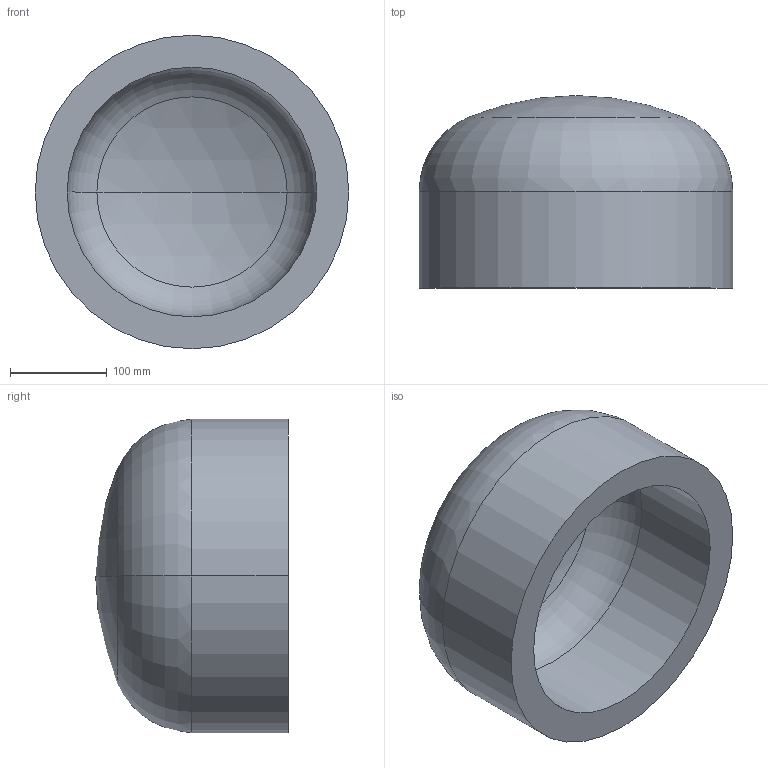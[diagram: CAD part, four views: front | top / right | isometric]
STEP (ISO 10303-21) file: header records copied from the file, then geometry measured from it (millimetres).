
FILE_DESCRIPTION (( 'STEP AP203' ), '1' );
FILE_NAME ('DIN 28013 Korbbogenform_-_Boden DIN 28013 - 323,9 x 100 - I - s=33.step', '2016-07-01T07:45:18', ( '' ), ( '' ), 'SwSTEP 2.0', 'SolidWorks 2013', '' );
FILE_SCHEMA (( 'CONFIG_CONTROL_DESIGN' ));
Length unit declared in the file: millimetre
Products named in the file (1): DIN 28013 Korbbogenform_-_Boden DIN 28013 - 323,9 x 100 - I - s=33
Bounding box: 323.9 x 198.9 x 323.9 mm (x, y, z)
Volume: 6339732.4 mm3; surface area: 416665.3 mm2
Topology: 1 solids, 1 shells, 13 faces, 24 edges, 14 vertices
Faces by surface type: torus 4, cylinder 4, sphere 4, plane 1
Entity records: 407 total; most frequent: DIRECTION 72, CARTESIAN_POINT 52, ORIENTED_EDGE 48, AXIS2_PLACEMENT_3D 34, EDGE_CURVE 24, CIRCLE 20, VERTEX_POINT 14, EDGE_LOOP 14
